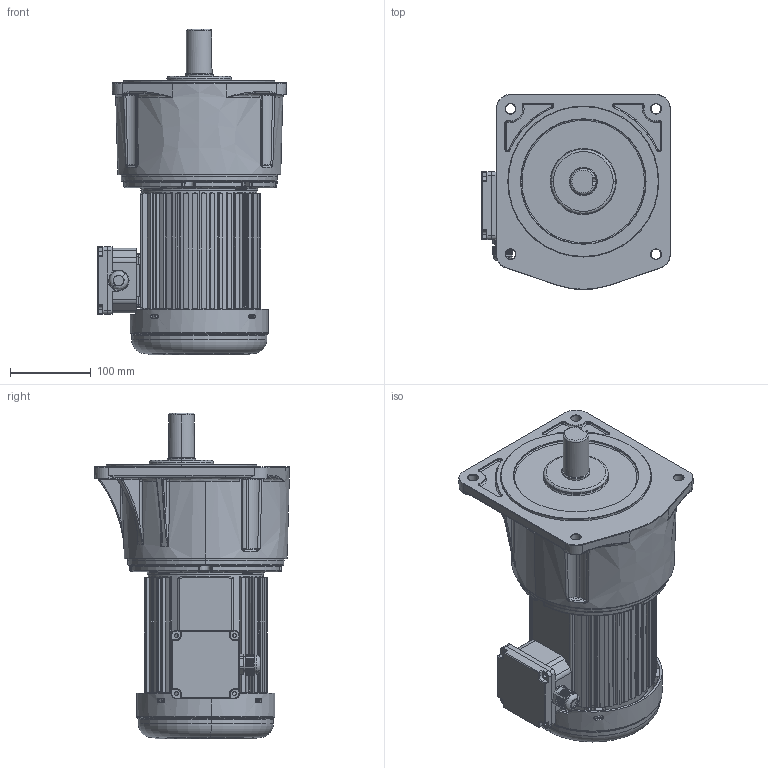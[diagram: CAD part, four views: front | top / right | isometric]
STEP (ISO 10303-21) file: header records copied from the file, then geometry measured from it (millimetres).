
FILE_DESCRIPTION (( 'STEP AP203' ), '1' );
FILE_NAME ('750W配4#立式.STEP', '2019-06-14T08:25:30', ( '微软中国' ), ( '微软用户' ), 'SwSTEP 2.0', 'SolidWorks 2012', '' );
FILE_SCHEMA (( 'CONFIG_CONTROL_DESIGN' ));
Products named in the file (10): 750W瑞欶; 釱菜; 750W 綴傷裔2_2; 坶踡ん 蚾饜; 蜊輛綴諉盄碟裔; 呿蹋諉盄碟; 儂褲 750W; 750W饜4#蕾宒; 4#蕾宒眊极; 4xg2X
Assembly tree (9 placements, depth 2):
  750W饜4#蕾宒
    儂褲 750W
    呿蹋諉盄碟
    蜊輛綴諉盄碟裔
    坶踡ん 蚾饜
    750W 綴傷裔2_2
    釱菜
    750W瑞欶
    4xg2X
    4#蕾宒眊极
Bounding box: 233.98 x 241.97 x 403.63 mm (x, y, z)
Volume: 5190048.1 mm3; surface area: 773895.7 mm2
Topology: 10 solids, 12 shells, 3596 faces, 9198 edges, 5708 vertices
Faces by surface type: cylinder 1324, bspline 915, plane 835, torus 292, cone 157, sphere 73
Entity records: 172603 total; most frequent: CARTESIAN_POINT 91587, ORIENTED_EDGE 18258, DIRECTION 14638, EDGE_CURVE 9131, AXIS2_PLACEMENT_3D 5821, VERTEX_POINT 5708, EDGE_LOOP 4127, ADVANCED_FACE 3596
